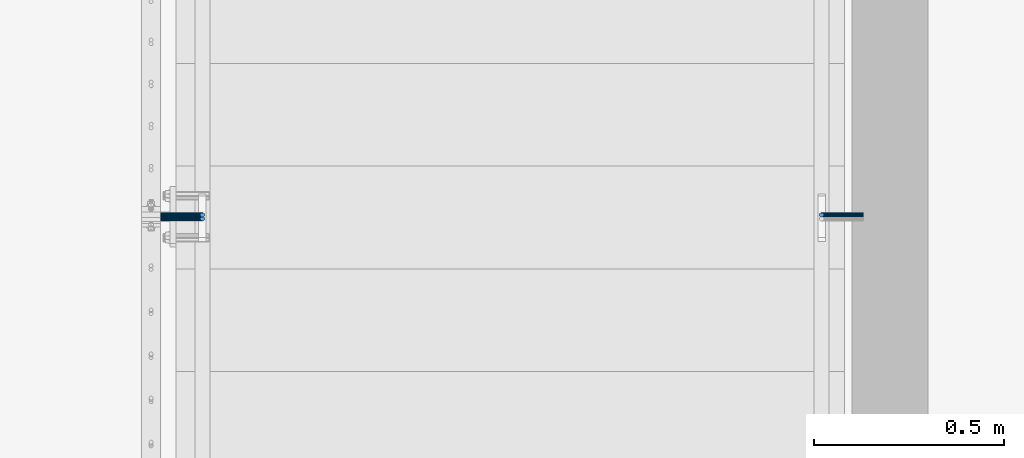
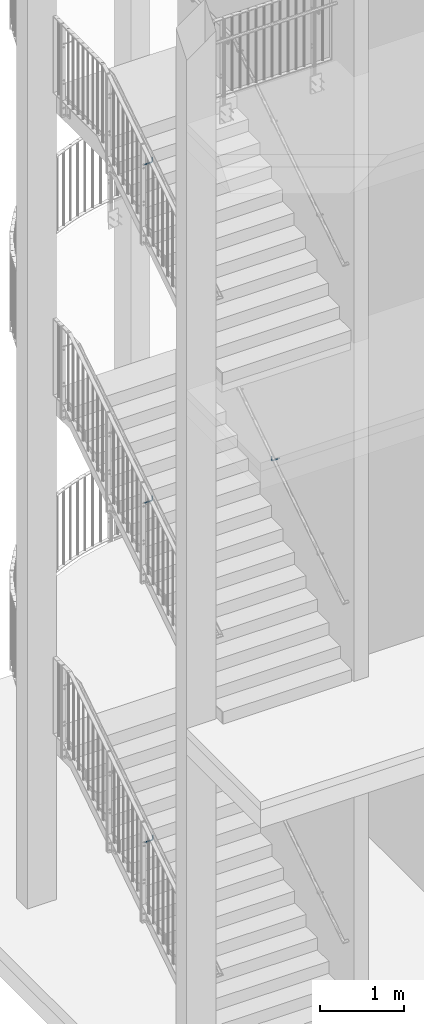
# One storey, part 130 of 296: 4 beams.
"""IFC2X3 building model written with IfcOpenShell, lengths in millimetres."""

from ifc_helpers import new_model, entity, si_unit, converted_unit, origin_with_axes, place, context, project, spatial, faceted_brep, material, element, save


model = new_model("IFC2X3")

# Units and contexts
model_context = context("Model", 3, precision=1e-09, world=origin_with_axes())
ifc_project = project(units=[si_unit("LENGTHUNIT", "METRE", prefix="MILLI"), si_unit("AREAUNIT", "SQUARE_METRE"), si_unit("VOLUMEUNIT", "CUBIC_METRE"), converted_unit("PLANEANGLEUNIT", "DEGREE", entity("IfcPlaneAngleMeasure", 0.01745329), si_unit("PLANEANGLEUNIT", "RADIAN"), dimensions=[0, 0, 0, 0, 0, 0, 0])], contexts=[model_context])

# Site, building, storey
site_placement = place(None, origin_with_axes())
site = spatial("IfcSite", under=ifc_project, at=site_placement, Name="TZD-S?d | Treppenhausgel?nder", CompositionType="ELEMENT")
building_placement = place(site_placement, origin_with_axes())
building = spatial("IfcBuilding", under=site, at=building_placement, Name="Struktur 1", CompositionType="ELEMENT")
storey_placement = place(building_placement, origin_with_axes())
storey = spatial("IfcBuildingStorey", under=building, at=storey_placement, Name="Default Storey", CompositionType="ELEMENT", Elevation=0.0)

# Beams
ifc_material = material(Name="S235JR")
beam_1_placement = place(None, origin_with_axes())
element("IfcBeam", 1, at=beam_1_placement, inside=storey, material=ifc_material, Name="-", ObjectType="-", context=model_context, shape_type="Brep", body=[
    faceted_brep([(1716.893587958, -2364.998155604, 7089.327549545), (1723.106412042, -2364.998155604, 7089.327549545), (1722.296100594, -2364.456722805, 7089.327549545), (1720.0, -2364.0, 7089.327549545), (1717.703899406, -2364.456722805, 7089.327549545), (1715.757359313, -2374.242640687, 7083.362490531), (1714.456722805, -2372.296100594, 7084.61850711), (1714.456722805, -2372.296100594, 7044.327549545), (1715.757359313, -2374.242640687, 7044.327549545), (1717.703899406, -2375.543277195, 7082.523247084), (1717.703899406, -2375.543277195, 7044.327549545), (1720.0, -2376.0, 7082.228543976), (1720.0, -2376.0, 7044.327549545), (1722.296100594, -2375.543277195, 7082.523247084), (1722.296100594, -2375.543277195, 7044.327549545), (1724.242640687, -2374.242640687, 7083.362490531), (1724.242640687, -2374.242640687, 7044.327549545), (1725.543277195, -2372.296100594, 7084.61850711), (1725.543277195, -2372.296100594, 7044.327549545), (1726.0, -2370.0, 7086.100079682), (1726.0, -2370.0, 7044.327549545), (1725.543277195, -2367.703899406, 7087.581652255), (1725.543277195, -2367.703899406, 7044.327549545), (1724.242640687, -2365.757359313, 7088.837668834), (1724.242640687, -2365.757359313, 7044.327549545), (1722.296100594, -2364.456722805, 7044.327549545), (1720.0, -2364.0, 7044.327549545), (1717.703899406, -2364.456722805, 7044.327549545), (1715.757359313, -2365.757359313, 7088.837668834), (1715.757359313, -2365.757359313, 7044.327549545), (1714.456722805, -2367.703899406, 7087.581652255), (1714.456722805, -2367.703899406, 7044.327549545), (1714.0, -2370.0, 7086.100079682), (1714.0, -2370.0, 7044.327549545), (1830.0, -2374.242640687, 7020.084908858), (1830.0, -2372.296100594, 7018.78427235), (1830.0, -2370.0, 7018.327549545), (1830.0, -2367.703899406, 7018.78427235), (1830.0, -2365.757359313, 7020.084908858), (1830.0, -2364.456722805, 7022.031448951), (1830.0, -2364.0, 7024.327549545), (1830.0, -2364.456722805, 7026.623650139), (1830.0, -2365.757359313, 7028.570190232), (1830.0, -2367.703899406, 7029.87082674), (1830.0, -2370.0, 7030.327549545), (1830.0, -2372.296100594, 7029.87082674), (1830.0, -2374.242640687, 7028.570190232), (1830.0, -2375.543277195, 7026.623650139), (1830.0, -2376.0, 7024.327549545), (1830.0, -2375.543277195, 7022.031448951), (1716.401089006, -2372.296100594, 7034.552560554), (1717.602720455, -2374.242640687, 7035.050292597), (1719.401089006, -2375.543277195, 7035.795201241), (1721.52240935, -2376.0, 7036.673880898), (1723.643729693, -2375.543277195, 7037.552560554), (1725.442098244, -2374.242640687, 7038.297469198), (1726.643729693, -2372.296100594, 7038.795201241), (1727.065686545, -2370.0, 7038.969981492), (1726.643729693, -2367.703899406, 7038.795201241), (1725.442098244, -2365.757359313, 7038.297469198), (1723.643729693, -2364.456722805, 7037.552560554), (1721.52240935, -2364.0, 7036.673880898), (1719.401089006, -2364.456722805, 7035.795201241), (1717.602720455, -2365.757359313, 7035.050292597), (1716.401089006, -2367.703899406, 7034.552560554), (1715.979132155, -2370.0, 7034.377780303), (1721.938175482, -2372.296100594, 7026.265725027), (1722.857864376, -2374.242640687, 7027.185413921), (1724.234276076, -2375.543277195, 7028.561825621), (1725.857864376, -2376.0, 7030.185413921), (1727.481452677, -2375.543277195, 7031.809002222), (1728.857864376, -2374.242640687, 7033.185413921), (1729.777553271, -2372.296100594, 7034.105102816), (1730.100505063, -2370.0, 7034.428054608), (1729.777553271, -2367.703899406, 7034.105102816), (1728.857864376, -2365.757359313, 7033.185413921), (1727.481452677, -2364.456722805, 7031.809002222), (1725.857864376, -2364.0, 7030.185413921), (1724.234276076, -2364.456722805, 7028.561825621), (1722.857864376, -2365.757359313, 7027.185413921), (1721.938175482, -2367.703899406, 7026.265725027), (1721.615223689, -2370.0, 7025.942773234), (1730.225011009, -2372.296100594, 7020.728638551), (1730.722743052, -2374.242640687, 7021.93027), (1731.467651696, -2375.543277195, 7023.728638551), (1732.346331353, -2376.0, 7025.849958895), (1733.225011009, -2375.543277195, 7027.971279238), (1733.969919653, -2374.242640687, 7029.769647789), (1734.467651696, -2372.296100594, 7030.971279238), (1734.642431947, -2370.0, 7031.39323609), (1734.467651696, -2367.703899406, 7030.971279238), (1733.969919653, -2365.757359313, 7029.769647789), (1733.225011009, -2364.456722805, 7027.971279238), (1732.346331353, -2364.0, 7025.849958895), (1731.467651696, -2364.456722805, 7023.728638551), (1730.722743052, -2365.757359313, 7021.93027), (1730.225011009, -2367.703899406, 7020.728638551), (1730.050230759, -2370.0, 7020.3066817), (1740.0, -2372.296100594, 7018.78427235), (1740.0, -2374.242640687, 7020.084908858), (1740.0, -2375.543277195, 7022.031448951), (1740.0, -2376.0, 7024.327549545), (1740.0, -2375.543277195, 7026.623650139), (1740.0, -2374.242640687, 7028.570190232), (1740.0, -2372.296100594, 7029.87082674), (1740.0, -2370.0, 7030.327549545), (1740.0, -2367.703899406, 7029.87082674), (1740.0, -2365.757359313, 7028.570190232), (1740.0, -2364.456722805, 7026.623650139), (1740.0, -2364.0, 7024.327549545), (1740.0, -2364.456722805, 7022.031448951), (1740.0, -2365.757359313, 7020.084908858), (1740.0, -2367.703899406, 7018.78427235), (1740.0, -2370.0, 7018.327549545)], [[[0, 1, 2, 3, 4]], [[5, 6, 7, 8]], [[9, 5, 8, 10]], [[11, 9, 10, 12]], [[13, 11, 12, 14]], [[15, 13, 14, 16]], [[17, 15, 16, 18]], [[19, 17, 18, 20]], [[21, 19, 20, 22]], [[23, 21, 22, 24]], [[1, 23, 24, 25, 2]], [[3, 2, 25, 26]], [[4, 3, 26, 27]], [[28, 0, 4, 27, 29]], [[30, 28, 29, 31]], [[32, 30, 31, 33]], [[6, 32, 33, 7]], [[17, 19, 21, 23, 1, 0, 28, 30, 32, 6, 5, 9, 11, 13, 15]], [[34, 35, 36, 37, 38, 39, 40, 41, 42, 43, 44, 45, 46, 47, 48, 49]], [[8, 7, 50, 51]], [[10, 8, 51, 52]], [[12, 10, 52, 53]], [[14, 12, 53, 54]], [[16, 14, 54, 55]], [[18, 16, 55, 56]], [[20, 18, 56, 57]], [[22, 20, 57, 58]], [[24, 22, 58, 59]], [[25, 24, 59, 60]], [[26, 25, 60, 61]], [[27, 26, 61, 62]], [[29, 27, 62, 63]], [[31, 29, 63, 64]], [[33, 31, 64, 65]], [[7, 33, 65, 50]], [[51, 50, 66, 67]], [[52, 51, 67, 68]], [[53, 52, 68, 69]], [[54, 53, 69, 70]], [[55, 54, 70, 71]], [[56, 55, 71, 72]], [[57, 56, 72, 73]], [[58, 57, 73, 74]], [[59, 58, 74, 75]], [[60, 59, 75, 76]], [[61, 60, 76, 77]], [[62, 61, 77, 78]], [[63, 62, 78, 79]], [[64, 63, 79, 80]], [[65, 64, 80, 81]], [[50, 65, 81, 66]], [[67, 66, 82, 83]], [[68, 67, 83, 84]], [[69, 68, 84, 85]], [[70, 69, 85, 86]], [[71, 70, 86, 87]], [[72, 71, 87, 88]], [[73, 72, 88, 89]], [[74, 73, 89, 90]], [[75, 74, 90, 91]], [[76, 75, 91, 92]], [[77, 76, 92, 93]], [[78, 77, 93, 94]], [[79, 78, 94, 95]], [[80, 79, 95, 96]], [[81, 80, 96, 97]], [[66, 81, 97, 82]], [[83, 82, 98, 99]], [[84, 83, 99, 100]], [[85, 84, 100, 101]], [[86, 85, 101, 102]], [[87, 86, 102, 103]], [[88, 87, 103, 104]], [[89, 88, 104, 105]], [[90, 89, 105, 106]], [[91, 90, 106, 107]], [[92, 91, 107, 108]], [[93, 92, 108, 109]], [[94, 93, 109, 110]], [[95, 94, 110, 111]], [[96, 95, 111, 112]], [[97, 96, 112, 113]], [[82, 97, 113, 98]], [[99, 98, 35, 34]], [[100, 99, 34, 49]], [[101, 100, 49, 48]], [[102, 101, 48, 47]], [[103, 102, 47, 46]], [[104, 103, 46, 45]], [[105, 104, 45, 44]], [[106, 105, 44, 43]], [[107, 106, 43, 42]], [[108, 107, 42, 41]], [[109, 108, 41, 40]], [[110, 109, 40, 39]], [[111, 110, 39, 38]], [[112, 111, 38, 37]], [[113, 112, 37, 36]], [[98, 113, 36, 35]]]),
])
beam_2_placement = place(None, origin_with_axes())
element("IfcBeam", 2, at=beam_2_placement, inside=storey, material=ifc_material, Name="-", ObjectType="-", context=model_context, shape_type="Brep", body=[
    faceted_brep([(86.893577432, -2374.998162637, 2186.446240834), (93.106422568, -2374.998162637, 2186.446240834), (92.296100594, -2374.456722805, 2186.446240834), (90.0, -2374.0, 2186.446240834), (87.703899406, -2374.456722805, 2186.446240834), (95.543277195, -2382.296100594, 2181.711611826), (94.242640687, -2384.242640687, 2180.448769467), (94.242640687, -2384.242640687, 2141.446240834), (95.543277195, -2382.296100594, 2141.446240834), (92.296100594, -2385.543277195, 2179.604965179), (92.296100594, -2385.543277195, 2141.446240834), (90.0, -2386.0, 2179.308660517), (90.0, -2386.0, 2141.446240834), (87.703899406, -2385.543277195, 2179.604965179), (87.703899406, -2385.543277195, 2141.446240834), (85.757359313, -2384.242640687, 2180.448769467), (85.757359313, -2384.242640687, 2141.446240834), (84.456722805, -2382.296100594, 2181.711611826), (84.456722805, -2382.296100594, 2141.446240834), (84.0, -2380.0, 2183.201235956), (84.0, -2380.0, 2141.446240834), (84.456722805, -2377.703899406, 2184.690860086), (84.456722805, -2377.703899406, 2141.446240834), (85.757359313, -2375.757359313, 2185.953702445), (85.757359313, -2375.757359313, 2141.446240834), (87.703899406, -2374.456722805, 2141.446240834), (90.0, -2374.0, 2141.446240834), (92.296100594, -2374.456722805, 2141.446240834), (94.242640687, -2375.757359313, 2185.953702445), (94.242640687, -2375.757359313, 2141.446240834), (95.543277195, -2377.703899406, 2184.690860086), (95.543277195, -2377.703899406, 2141.446240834), (96.0, -2380.0, 2183.201235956), (96.0, -2380.0, 2141.446240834), (-20.0, -2382.296100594, 2115.902963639), (-20.0, -2384.242640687, 2117.203600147), (-20.0, -2385.543277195, 2119.15014024), (-20.0, -2386.0, 2121.446240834), (-20.0, -2385.543277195, 2123.742341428), (-20.0, -2384.242640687, 2125.688881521), (-20.0, -2382.296100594, 2126.989518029), (-20.0, -2380.0, 2127.446240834), (-20.0, -2377.703899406, 2126.989518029), (-20.0, -2375.757359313, 2125.688881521), (-20.0, -2374.456722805, 2123.742341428), (-20.0, -2374.0, 2121.446240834), (-20.0, -2374.456722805, 2119.15014024), (-20.0, -2375.757359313, 2117.203600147), (-20.0, -2377.703899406, 2115.902963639), (-20.0, -2380.0, 2115.446240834), (92.397279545, -2384.242640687, 2132.168983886), (93.598910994, -2382.296100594, 2131.671251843), (90.598910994, -2385.543277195, 2132.91389253), (88.47759065, -2386.0, 2133.792572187), (86.356270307, -2385.543277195, 2134.671251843), (84.557901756, -2384.242640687, 2135.416160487), (83.356270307, -2382.296100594, 2135.91389253), (82.934313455, -2380.0, 2136.088672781), (83.356270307, -2377.703899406, 2135.91389253), (84.557901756, -2375.757359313, 2135.416160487), (86.356270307, -2374.456722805, 2134.671251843), (88.47759065, -2374.0, 2133.792572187), (90.598910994, -2374.456722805, 2132.91389253), (92.397279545, -2375.757359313, 2132.168983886), (93.598910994, -2377.703899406, 2131.671251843), (94.020867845, -2380.0, 2131.496471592), (87.142135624, -2384.242640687, 2124.30410521), (88.061824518, -2382.296100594, 2123.384416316), (85.765723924, -2385.543277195, 2125.68051691), (84.142135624, -2386.0, 2127.30410521), (82.518547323, -2385.543277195, 2128.927693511), (81.142135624, -2384.242640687, 2130.30410521), (80.222446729, -2382.296100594, 2131.223794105), (79.899494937, -2380.0, 2131.546745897), (80.222446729, -2377.703899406, 2131.223794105), (81.142135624, -2375.757359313, 2130.30410521), (82.518547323, -2374.456722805, 2128.927693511), (84.142135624, -2374.0, 2127.30410521), (85.765723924, -2374.456722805, 2125.68051691), (87.142135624, -2375.757359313, 2124.30410521), (88.061824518, -2377.703899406, 2123.384416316), (88.384776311, -2380.0, 2123.061464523), (79.277256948, -2384.242640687, 2119.048961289), (79.774988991, -2382.296100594, 2117.84732984), (78.532348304, -2385.543277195, 2120.84732984), (77.653668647, -2386.0, 2122.968650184), (76.774988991, -2385.543277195, 2125.089970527), (76.030080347, -2384.242640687, 2126.888339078), (75.532348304, -2382.296100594, 2128.089970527), (75.357568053, -2380.0, 2128.511927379), (75.532348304, -2377.703899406, 2128.089970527), (76.030080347, -2375.757359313, 2126.888339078), (76.774988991, -2374.456722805, 2125.089970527), (77.653668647, -2374.0, 2122.968650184), (78.532348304, -2374.456722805, 2120.84732984), (79.277256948, -2375.757359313, 2119.048961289), (79.774988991, -2377.703899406, 2117.84732984), (79.949769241, -2380.0, 2117.425372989), (70.0, -2384.242640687, 2117.203600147), (70.0, -2382.296100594, 2115.902963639), (70.0, -2385.543277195, 2119.15014024), (70.0, -2386.0, 2121.446240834), (70.0, -2385.543277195, 2123.742341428), (70.0, -2384.242640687, 2125.688881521), (70.0, -2382.296100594, 2126.989518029), (70.0, -2380.0, 2127.446240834), (70.0, -2377.703899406, 2126.989518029), (70.0, -2375.757359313, 2125.688881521), (70.0, -2374.456722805, 2123.742341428), (70.0, -2374.0, 2121.446240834), (70.0, -2374.456722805, 2119.15014024), (70.0, -2375.757359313, 2117.203600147), (70.0, -2377.703899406, 2115.902963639), (70.0, -2380.0, 2115.446240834)], [[[0, 1, 2, 3, 4]], [[5, 6, 7, 8]], [[6, 9, 10, 7]], [[9, 11, 12, 10]], [[11, 13, 14, 12]], [[13, 15, 16, 14]], [[15, 17, 18, 16]], [[17, 19, 20, 18]], [[19, 21, 22, 20]], [[21, 23, 24, 22]], [[23, 0, 4, 25, 24]], [[4, 3, 26, 25]], [[3, 2, 27, 26]], [[1, 28, 29, 27, 2]], [[28, 30, 31, 29]], [[30, 32, 33, 31]], [[32, 5, 8, 33]], [[19, 17, 15, 13, 11, 9, 6, 5, 32, 30, 28, 1, 0, 23, 21]], [[34, 35, 36, 37, 38, 39, 40, 41, 42, 43, 44, 45, 46, 47, 48, 49]], [[8, 7, 50, 51]], [[7, 10, 52, 50]], [[10, 12, 53, 52]], [[12, 14, 54, 53]], [[14, 16, 55, 54]], [[16, 18, 56, 55]], [[18, 20, 57, 56]], [[20, 22, 58, 57]], [[22, 24, 59, 58]], [[24, 25, 60, 59]], [[25, 26, 61, 60]], [[26, 27, 62, 61]], [[27, 29, 63, 62]], [[29, 31, 64, 63]], [[31, 33, 65, 64]], [[33, 8, 51, 65]], [[51, 50, 66, 67]], [[50, 52, 68, 66]], [[52, 53, 69, 68]], [[53, 54, 70, 69]], [[54, 55, 71, 70]], [[55, 56, 72, 71]], [[56, 57, 73, 72]], [[57, 58, 74, 73]], [[58, 59, 75, 74]], [[59, 60, 76, 75]], [[60, 61, 77, 76]], [[61, 62, 78, 77]], [[62, 63, 79, 78]], [[63, 64, 80, 79]], [[64, 65, 81, 80]], [[65, 51, 67, 81]], [[67, 66, 82, 83]], [[66, 68, 84, 82]], [[68, 69, 85, 84]], [[69, 70, 86, 85]], [[70, 71, 87, 86]], [[71, 72, 88, 87]], [[72, 73, 89, 88]], [[73, 74, 90, 89]], [[74, 75, 91, 90]], [[75, 76, 92, 91]], [[76, 77, 93, 92]], [[77, 78, 94, 93]], [[78, 79, 95, 94]], [[79, 80, 96, 95]], [[80, 81, 97, 96]], [[81, 67, 83, 97]], [[83, 82, 98, 99]], [[82, 84, 100, 98]], [[84, 85, 101, 100]], [[85, 86, 102, 101]], [[86, 87, 103, 102]], [[87, 88, 104, 103]], [[88, 89, 105, 104]], [[89, 90, 106, 105]], [[90, 91, 107, 106]], [[91, 92, 108, 107]], [[92, 93, 109, 108]], [[93, 94, 110, 109]], [[94, 95, 111, 110]], [[95, 96, 112, 111]], [[96, 97, 113, 112]], [[97, 83, 99, 113]], [[99, 98, 35, 34]], [[98, 100, 36, 35]], [[100, 101, 37, 36]], [[101, 102, 38, 37]], [[102, 103, 39, 38]], [[103, 104, 40, 39]], [[104, 105, 41, 40]], [[105, 106, 42, 41]], [[106, 107, 43, 42]], [[107, 108, 44, 43]], [[108, 109, 45, 44]], [[109, 110, 46, 45]], [[110, 111, 47, 46]], [[111, 112, 48, 47]], [[112, 113, 49, 48]], [[113, 99, 34, 49]]]),
])
beam_3_placement = place(None, origin_with_axes())
element("IfcBeam", 3, at=beam_3_placement, inside=storey, material=ifc_material, Name="-", ObjectType="-", context=model_context, shape_type="Brep", body=[
    faceted_brep([(86.893587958, -2364.998155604, 7089.327549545), (93.106412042, -2364.998155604, 7089.327549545), (92.296100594, -2364.456722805, 7089.327549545), (90.0, -2364.0, 7089.327549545), (87.703899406, -2364.456722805, 7089.327549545), (95.543277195, -2372.296100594, 7084.61850711), (94.242640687, -2374.242640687, 7083.362490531), (94.242640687, -2374.242640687, 7044.327549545), (95.543277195, -2372.296100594, 7044.327549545), (92.296100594, -2375.543277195, 7082.523247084), (92.296100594, -2375.543277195, 7044.327549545), (90.0, -2376.0, 7082.228543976), (90.0, -2376.0, 7044.327549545), (87.703899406, -2375.543277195, 7082.523247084), (87.703899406, -2375.543277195, 7044.327549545), (85.757359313, -2374.242640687, 7083.362490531), (85.757359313, -2374.242640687, 7044.327549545), (84.456722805, -2372.296100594, 7084.61850711), (84.456722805, -2372.296100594, 7044.327549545), (84.0, -2370.0, 7086.100079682), (84.0, -2370.0, 7044.327549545), (84.456722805, -2367.703899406, 7087.581652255), (84.456722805, -2367.703899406, 7044.327549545), (85.757359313, -2365.757359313, 7088.837668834), (85.757359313, -2365.757359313, 7044.327549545), (87.703899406, -2364.456722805, 7044.327549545), (90.0, -2364.0, 7044.327549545), (92.296100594, -2364.456722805, 7044.327549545), (94.242640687, -2365.757359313, 7088.837668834), (94.242640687, -2365.757359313, 7044.327549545), (95.543277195, -2367.703899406, 7087.581652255), (95.543277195, -2367.703899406, 7044.327549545), (96.0, -2370.0, 7086.100079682), (96.0, -2370.0, 7044.327549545), (-20.0, -2372.296100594, 7018.78427235), (-20.0, -2374.242640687, 7020.084908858), (-20.0, -2375.543277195, 7022.031448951), (-20.0, -2376.0, 7024.327549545), (-20.0, -2375.543277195, 7026.623650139), (-20.0, -2374.242640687, 7028.570190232), (-20.0, -2372.296100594, 7029.87082674), (-20.0, -2370.0, 7030.327549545), (-20.0, -2367.703899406, 7029.87082674), (-20.0, -2365.757359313, 7028.570190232), (-20.0, -2364.456722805, 7026.623650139), (-20.0, -2364.0, 7024.327549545), (-20.0, -2364.456722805, 7022.031448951), (-20.0, -2365.757359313, 7020.084908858), (-20.0, -2367.703899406, 7018.78427235), (-20.0, -2370.0, 7018.327549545), (92.397279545, -2374.242640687, 7035.050292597), (93.598910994, -2372.296100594, 7034.552560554), (90.598910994, -2375.543277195, 7035.795201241), (88.47759065, -2376.0, 7036.673880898), (86.356270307, -2375.543277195, 7037.552560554), (84.557901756, -2374.242640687, 7038.297469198), (83.356270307, -2372.296100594, 7038.795201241), (82.934313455, -2370.0, 7038.969981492), (83.356270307, -2367.703899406, 7038.795201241), (84.557901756, -2365.757359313, 7038.297469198), (86.356270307, -2364.456722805, 7037.552560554), (88.47759065, -2364.0, 7036.673880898), (90.598910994, -2364.456722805, 7035.795201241), (92.397279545, -2365.757359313, 7035.050292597), (93.598910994, -2367.703899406, 7034.552560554), (94.020867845, -2370.0, 7034.377780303), (87.142135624, -2374.242640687, 7027.185413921), (88.061824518, -2372.296100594, 7026.265725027), (85.765723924, -2375.543277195, 7028.561825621), (84.142135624, -2376.0, 7030.185413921), (82.518547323, -2375.543277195, 7031.809002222), (81.142135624, -2374.242640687, 7033.185413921), (80.222446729, -2372.296100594, 7034.105102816), (79.899494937, -2370.0, 7034.428054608), (80.222446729, -2367.703899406, 7034.105102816), (81.142135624, -2365.757359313, 7033.185413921), (82.518547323, -2364.456722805, 7031.809002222), (84.142135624, -2364.0, 7030.185413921), (85.765723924, -2364.456722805, 7028.561825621), (87.142135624, -2365.757359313, 7027.185413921), (88.061824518, -2367.703899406, 7026.265725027), (88.384776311, -2370.0, 7025.942773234), (79.277256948, -2374.242640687, 7021.93027), (79.774988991, -2372.296100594, 7020.728638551), (78.532348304, -2375.543277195, 7023.728638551), (77.653668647, -2376.0, 7025.849958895), (76.774988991, -2375.543277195, 7027.971279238), (76.030080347, -2374.242640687, 7029.769647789), (75.532348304, -2372.296100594, 7030.971279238), (75.357568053, -2370.0, 7031.39323609), (75.532348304, -2367.703899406, 7030.971279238), (76.030080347, -2365.757359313, 7029.769647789), (76.774988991, -2364.456722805, 7027.971279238), (77.653668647, -2364.0, 7025.849958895), (78.532348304, -2364.456722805, 7023.728638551), (79.277256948, -2365.757359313, 7021.93027), (79.774988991, -2367.703899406, 7020.728638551), (79.949769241, -2370.0, 7020.3066817), (70.0, -2374.242640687, 7020.084908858), (70.0, -2372.296100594, 7018.78427235), (70.0, -2375.543277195, 7022.031448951), (70.0, -2376.0, 7024.327549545), (70.0, -2375.543277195, 7026.623650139), (70.0, -2374.242640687, 7028.570190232), (70.0, -2372.296100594, 7029.87082674), (70.0, -2370.0, 7030.327549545), (70.0, -2367.703899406, 7029.87082674), (70.0, -2365.757359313, 7028.570190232), (70.0, -2364.456722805, 7026.623650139), (70.0, -2364.0, 7024.327549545), (70.0, -2364.456722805, 7022.031448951), (70.0, -2365.757359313, 7020.084908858), (70.0, -2367.703899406, 7018.78427235), (70.0, -2370.0, 7018.327549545)], [[[0, 1, 2, 3, 4]], [[5, 6, 7, 8]], [[6, 9, 10, 7]], [[9, 11, 12, 10]], [[11, 13, 14, 12]], [[13, 15, 16, 14]], [[15, 17, 18, 16]], [[17, 19, 20, 18]], [[19, 21, 22, 20]], [[21, 23, 24, 22]], [[23, 0, 4, 25, 24]], [[4, 3, 26, 25]], [[3, 2, 27, 26]], [[1, 28, 29, 27, 2]], [[28, 30, 31, 29]], [[30, 32, 33, 31]], [[32, 5, 8, 33]], [[19, 17, 15, 13, 11, 9, 6, 5, 32, 30, 28, 1, 0, 23, 21]], [[34, 35, 36, 37, 38, 39, 40, 41, 42, 43, 44, 45, 46, 47, 48, 49]], [[8, 7, 50, 51]], [[7, 10, 52, 50]], [[10, 12, 53, 52]], [[12, 14, 54, 53]], [[14, 16, 55, 54]], [[16, 18, 56, 55]], [[18, 20, 57, 56]], [[20, 22, 58, 57]], [[22, 24, 59, 58]], [[24, 25, 60, 59]], [[25, 26, 61, 60]], [[26, 27, 62, 61]], [[27, 29, 63, 62]], [[29, 31, 64, 63]], [[31, 33, 65, 64]], [[33, 8, 51, 65]], [[51, 50, 66, 67]], [[50, 52, 68, 66]], [[52, 53, 69, 68]], [[53, 54, 70, 69]], [[54, 55, 71, 70]], [[55, 56, 72, 71]], [[56, 57, 73, 72]], [[57, 58, 74, 73]], [[58, 59, 75, 74]], [[59, 60, 76, 75]], [[60, 61, 77, 76]], [[61, 62, 78, 77]], [[62, 63, 79, 78]], [[63, 64, 80, 79]], [[64, 65, 81, 80]], [[65, 51, 67, 81]], [[67, 66, 82, 83]], [[66, 68, 84, 82]], [[68, 69, 85, 84]], [[69, 70, 86, 85]], [[70, 71, 87, 86]], [[71, 72, 88, 87]], [[72, 73, 89, 88]], [[73, 74, 90, 89]], [[74, 75, 91, 90]], [[75, 76, 92, 91]], [[76, 77, 93, 92]], [[77, 78, 94, 93]], [[78, 79, 95, 94]], [[79, 80, 96, 95]], [[80, 81, 97, 96]], [[81, 67, 83, 97]], [[83, 82, 98, 99]], [[82, 84, 100, 98]], [[84, 85, 101, 100]], [[85, 86, 102, 101]], [[86, 87, 103, 102]], [[87, 88, 104, 103]], [[88, 89, 105, 104]], [[89, 90, 106, 105]], [[90, 91, 107, 106]], [[91, 92, 108, 107]], [[92, 93, 109, 108]], [[93, 94, 110, 109]], [[94, 95, 111, 110]], [[95, 96, 112, 111]], [[96, 97, 113, 112]], [[97, 83, 99, 113]], [[99, 98, 35, 34]], [[98, 100, 36, 35]], [[100, 101, 37, 36]], [[101, 102, 38, 37]], [[102, 103, 39, 38]], [[103, 104, 40, 39]], [[104, 105, 41, 40]], [[105, 106, 42, 41]], [[106, 107, 43, 42]], [[107, 108, 44, 43]], [[108, 109, 45, 44]], [[109, 110, 46, 45]], [[110, 111, 47, 46]], [[111, 112, 48, 47]], [[112, 113, 49, 48]], [[113, 99, 34, 49]]]),
])
beam_4_placement = place(None, origin_with_axes())
element("IfcBeam", 4, at=beam_4_placement, inside=storey, material=ifc_material, Name="-", ObjectType="-", context=model_context, shape_type="Brep", body=[
    faceted_brep([(86.893581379, -2364.99816, 11983.641837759), (93.106418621, -2364.99816, 11983.641837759), (92.296100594, -2364.456722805, 11983.641837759), (90.0, -2364.0, 11983.641837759), (87.703899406, -2364.456722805, 11983.641837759), (95.543277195, -2372.296100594, 11978.916841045), (94.242640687, -2374.242640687, 11977.656568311), (94.242640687, -2374.242640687, 11938.641837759), (95.543277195, -2372.296100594, 11938.641837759), (92.296100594, -2375.543277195, 11976.814480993), (92.296100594, -2375.543277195, 11938.641837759), (90.0, -2376.0, 11976.51877925), (90.0, -2376.0, 11938.641837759), (87.703899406, -2375.543277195, 11976.814480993), (87.703899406, -2375.543277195, 11938.641837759), (85.757359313, -2374.242640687, 11977.656568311), (85.757359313, -2374.242640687, 11938.641837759), (84.456722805, -2372.296100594, 11978.916841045), (84.456722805, -2372.296100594, 11938.641837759), (84.0, -2370.0, 11980.403434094), (84.0, -2370.0, 11938.641837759), (84.456722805, -2367.703899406, 11981.890027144), (84.456722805, -2367.703899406, 11938.641837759), (85.757359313, -2365.757359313, 11983.150299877), (85.757359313, -2365.757359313, 11938.641837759), (87.703899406, -2364.456722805, 11938.641837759), (90.0, -2364.0, 11938.641837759), (92.296100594, -2364.456722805, 11938.641837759), (94.242640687, -2365.757359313, 11983.150299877), (94.242640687, -2365.757359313, 11938.641837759), (95.543277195, -2367.703899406, 11981.890027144), (95.543277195, -2367.703899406, 11938.641837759), (96.0, -2370.0, 11980.403434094), (96.0, -2370.0, 11938.641837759), (-20.0, -2372.296100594, 11913.098560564), (-20.0, -2374.242640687, 11914.399197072), (-20.0, -2375.543277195, 11916.345737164), (-20.0, -2376.0, 11918.641837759), (-20.0, -2375.543277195, 11920.937938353), (-20.0, -2374.242640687, 11922.884478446), (-20.0, -2372.296100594, 11924.185114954), (-20.0, -2370.0, 11924.641837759), (-20.0, -2367.703899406, 11924.185114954), (-20.0, -2365.757359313, 11922.884478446), (-20.0, -2364.456722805, 11920.937938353), (-20.0, -2364.0, 11918.641837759), (-20.0, -2364.456722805, 11916.345737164), (-20.0, -2365.757359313, 11914.399197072), (-20.0, -2367.703899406, 11913.098560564), (-20.0, -2370.0, 11912.641837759), (92.397279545, -2374.242640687, 11929.364580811), (93.598910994, -2372.296100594, 11928.866848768), (90.598910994, -2375.543277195, 11930.109489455), (88.47759065, -2376.0, 11930.988169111), (86.356270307, -2375.543277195, 11931.866848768), (84.557901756, -2374.242640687, 11932.611757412), (83.356270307, -2372.296100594, 11933.109489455), (82.934313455, -2370.0, 11933.284269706), (83.356270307, -2367.703899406, 11933.109489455), (84.557901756, -2365.757359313, 11932.611757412), (86.356270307, -2364.456722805, 11931.866848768), (88.47759065, -2364.0, 11930.988169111), (90.598910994, -2364.456722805, 11930.109489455), (92.397279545, -2365.757359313, 11929.364580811), (93.598910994, -2367.703899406, 11928.866848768), (94.020867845, -2370.0, 11928.692068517), (87.142135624, -2374.242640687, 11921.499702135), (88.061824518, -2372.296100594, 11920.58001324), (85.765723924, -2375.543277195, 11922.876113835), (84.142135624, -2376.0, 11924.499702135), (82.518547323, -2375.543277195, 11926.123290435), (81.142135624, -2374.242640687, 11927.499702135), (80.222446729, -2372.296100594, 11928.41939103), (79.899494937, -2370.0, 11928.742342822), (80.222446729, -2367.703899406, 11928.41939103), (81.142135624, -2365.757359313, 11927.499702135), (82.518547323, -2364.456722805, 11926.123290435), (84.142135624, -2364.0, 11924.499702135), (85.765723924, -2364.456722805, 11922.876113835), (87.142135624, -2365.757359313, 11921.499702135), (88.061824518, -2367.703899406, 11920.58001324), (88.384776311, -2370.0, 11920.257061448), (79.277256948, -2374.242640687, 11916.244558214), (79.774988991, -2372.296100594, 11915.042926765), (78.532348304, -2375.543277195, 11918.042926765), (77.653668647, -2376.0, 11920.164247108), (76.774988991, -2375.543277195, 11922.285567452), (76.030080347, -2374.242640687, 11924.083936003), (75.532348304, -2372.296100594, 11925.285567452), (75.357568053, -2370.0, 11925.707524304), (75.532348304, -2367.703899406, 11925.285567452), (76.030080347, -2365.757359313, 11924.083936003), (76.774988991, -2364.456722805, 11922.285567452), (77.653668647, -2364.0, 11920.164247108), (78.532348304, -2364.456722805, 11918.042926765), (79.277256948, -2365.757359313, 11916.244558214), (79.774988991, -2367.703899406, 11915.042926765), (79.949769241, -2370.0, 11914.620969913), (70.0, -2374.242640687, 11914.399197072), (70.0, -2372.296100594, 11913.098560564), (70.0, -2375.543277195, 11916.345737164), (70.0, -2376.0, 11918.641837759), (70.0, -2375.543277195, 11920.937938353), (70.0, -2374.242640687, 11922.884478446), (70.0, -2372.296100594, 11924.185114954), (70.0, -2370.0, 11924.641837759), (70.0, -2367.703899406, 11924.185114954), (70.0, -2365.757359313, 11922.884478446), (70.0, -2364.456722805, 11920.937938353), (70.0, -2364.0, 11918.641837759), (70.0, -2364.456722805, 11916.345737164), (70.0, -2365.757359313, 11914.399197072), (70.0, -2367.703899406, 11913.098560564), (70.0, -2370.0, 11912.641837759)], [[[0, 1, 2, 3, 4]], [[5, 6, 7, 8]], [[6, 9, 10, 7]], [[9, 11, 12, 10]], [[11, 13, 14, 12]], [[13, 15, 16, 14]], [[15, 17, 18, 16]], [[17, 19, 20, 18]], [[19, 21, 22, 20]], [[21, 23, 24, 22]], [[23, 0, 4, 25, 24]], [[4, 3, 26, 25]], [[3, 2, 27, 26]], [[1, 28, 29, 27, 2]], [[28, 30, 31, 29]], [[30, 32, 33, 31]], [[32, 5, 8, 33]], [[19, 17, 15, 13, 11, 9, 6, 5, 32, 30, 28, 1, 0, 23, 21]], [[34, 35, 36, 37, 38, 39, 40, 41, 42, 43, 44, 45, 46, 47, 48, 49]], [[8, 7, 50, 51]], [[7, 10, 52, 50]], [[10, 12, 53, 52]], [[12, 14, 54, 53]], [[14, 16, 55, 54]], [[16, 18, 56, 55]], [[18, 20, 57, 56]], [[20, 22, 58, 57]], [[22, 24, 59, 58]], [[24, 25, 60, 59]], [[25, 26, 61, 60]], [[26, 27, 62, 61]], [[27, 29, 63, 62]], [[29, 31, 64, 63]], [[31, 33, 65, 64]], [[33, 8, 51, 65]], [[51, 50, 66, 67]], [[50, 52, 68, 66]], [[52, 53, 69, 68]], [[53, 54, 70, 69]], [[54, 55, 71, 70]], [[55, 56, 72, 71]], [[56, 57, 73, 72]], [[57, 58, 74, 73]], [[58, 59, 75, 74]], [[59, 60, 76, 75]], [[60, 61, 77, 76]], [[61, 62, 78, 77]], [[62, 63, 79, 78]], [[63, 64, 80, 79]], [[64, 65, 81, 80]], [[65, 51, 67, 81]], [[67, 66, 82, 83]], [[66, 68, 84, 82]], [[68, 69, 85, 84]], [[69, 70, 86, 85]], [[70, 71, 87, 86]], [[71, 72, 88, 87]], [[72, 73, 89, 88]], [[73, 74, 90, 89]], [[74, 75, 91, 90]], [[75, 76, 92, 91]], [[76, 77, 93, 92]], [[77, 78, 94, 93]], [[78, 79, 95, 94]], [[79, 80, 96, 95]], [[80, 81, 97, 96]], [[81, 67, 83, 97]], [[83, 82, 98, 99]], [[82, 84, 100, 98]], [[84, 85, 101, 100]], [[85, 86, 102, 101]], [[86, 87, 103, 102]], [[87, 88, 104, 103]], [[88, 89, 105, 104]], [[89, 90, 106, 105]], [[90, 91, 107, 106]], [[91, 92, 108, 107]], [[92, 93, 109, 108]], [[93, 94, 110, 109]], [[94, 95, 111, 110]], [[95, 96, 112, 111]], [[96, 97, 113, 112]], [[97, 83, 99, 113]], [[99, 98, 35, 34]], [[98, 100, 36, 35]], [[100, 101, 37, 36]], [[101, 102, 38, 37]], [[102, 103, 39, 38]], [[103, 104, 40, 39]], [[104, 105, 41, 40]], [[105, 106, 42, 41]], [[106, 107, 43, 42]], [[107, 108, 44, 43]], [[108, 109, 45, 44]], [[109, 110, 46, 45]], [[110, 111, 47, 46]], [[111, 112, 48, 47]], [[112, 113, 49, 48]], [[113, 99, 34, 49]]]),
])

save(model, "model.ifc")
